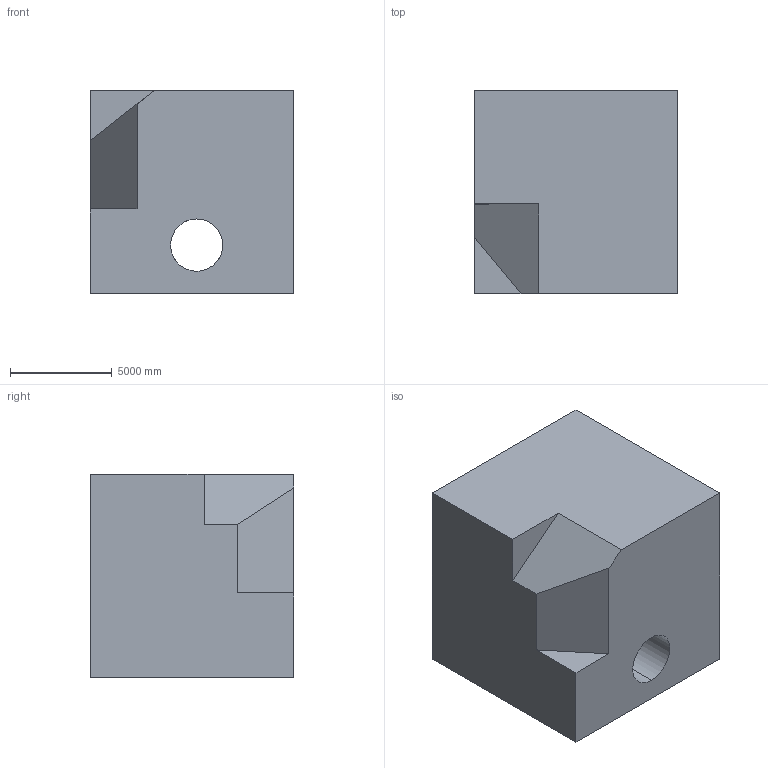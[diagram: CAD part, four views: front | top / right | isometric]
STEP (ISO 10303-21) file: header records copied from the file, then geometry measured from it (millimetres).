
FILE_DESCRIPTION (( 'STEP AP203' ), '1' );
FILE_NAME ('1315.STEP', '2022-08-18T13:43:19', ( 'user' ), ( '' ), 'SwSTEP 2.0', 'SolidWorks 2021', '' );
FILE_SCHEMA (( 'CONFIG_CONTROL_DESIGN' ));
Length unit declared in the file: centimetre
Products named in the file (1): 1315
Bounding box: 10000 x 10000 x 10000 mm (x, y, z)
Volume: 895232334975.5 mm3; surface area: 676751244 mm2
Topology: 1 solids, 1 shells, 15 faces, 39 edges, 26 vertices
Faces by surface type: plane 11, cylinder 4
Entity records: 544 total; most frequent: CARTESIAN_POINT 81, DIRECTION 81, ORIENTED_EDGE 78, EDGE_CURVE 39, LINE 29, VECTOR 29, AXIS2_PLACEMENT_3D 26, VERTEX_POINT 26
